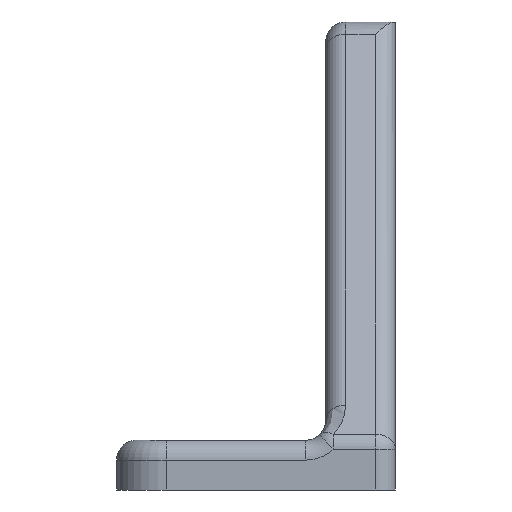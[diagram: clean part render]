
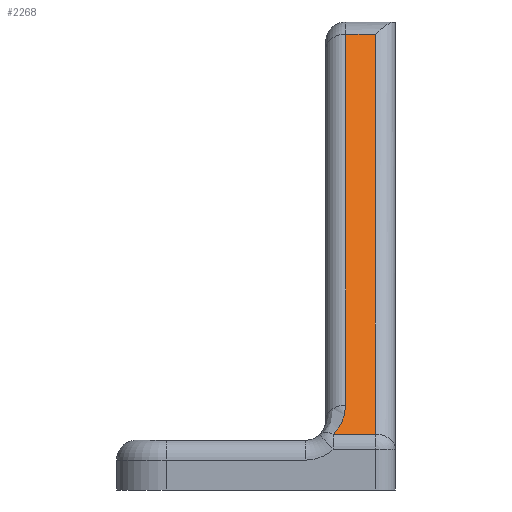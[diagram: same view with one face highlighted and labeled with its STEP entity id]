
A CAD part, front view. The second image highlights one B-rep face of the part: STEP entity #2268.
In plain terms, the highlighted planar face has unit normal (0, -0.658, 0.753).
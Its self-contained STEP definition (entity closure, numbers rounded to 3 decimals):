
#138 = FACE_OUTER_BOUND ( 'NONE', #1165, .T. ) ;
#272 = AXIS2_PLACEMENT_3D ( 'NONE', #2463, #2472, #2473 ) ;
#642 = VECTOR ( 'NONE', #2673, 1000. ) ;
#648 = LINE ( 'NONE', #2672, #642 ) ;
#746 = EDGE_CURVE ( 'NONE', #1237, #1269, #1818, .T. ) ;
#773 = EDGE_CURVE ( 'NONE', #1210, #1306, #648, .T. ) ;
#904 = EDGE_CURVE ( 'NONE', #1269, #1210, #1692, .T. ) ;
#934 = EDGE_CURVE ( 'NONE', #1306, #1264, #1735, .T. ) ;
#948 = EDGE_CURVE ( 'NONE', #1264, #1237, #1776, .T. ) ;
#1165 = EDGE_LOOP ( 'NONE', ( #2127, #2128, #1908, #1951, #2151 ) ) ;
#1210 = VERTEX_POINT ( 'NONE', #3147 ) ;
#1237 = VERTEX_POINT ( 'NONE', #3174 ) ;
#1264 = VERTEX_POINT ( 'NONE', #3197 ) ;
#1269 = VERTEX_POINT ( 'NONE', #3202 ) ;
#1306 = VERTEX_POINT ( 'NONE', #2821 ) ;
#1687 = VECTOR ( 'NONE', #3347, 1000. ) ;
#1692 = LINE ( 'NONE', #3346, #1687 ) ;
#1731 = VECTOR ( 'NONE', #3402, 1000. ) ;
#1735 = LINE ( 'NONE', #3401, #1731 ) ;
#1771 = VECTOR ( 'NONE', #3430, 1000. ) ;
#1776 = LINE ( 'NONE', #3429, #1771 ) ;
#1818 =( BOUNDED_CURVE ( )  B_SPLINE_CURVE ( 3, ( #2638, #2633, #2634, #2639 ),
 .UNSPECIFIED., .F., .T. ) 
 B_SPLINE_CURVE_WITH_KNOTS ( ( 4, 4 ),
 ( 1.571, 2.385 ),
 .UNSPECIFIED. ) 
 CURVE ( )  GEOMETRIC_REPRESENTATION_ITEM ( )  RATIONAL_B_SPLINE_CURVE ( ( 1., 0.946, 0.946, 1. ) ) 
 REPRESENTATION_ITEM ( '' )  );
#1908 = ORIENTED_EDGE ( 'NONE', *, *, #934, .T. ) ;
#1951 = ORIENTED_EDGE ( 'NONE', *, *, #948, .T. ) ;
#2127 = ORIENTED_EDGE ( 'NONE', *, *, #904, .T. ) ;
#2128 = ORIENTED_EDGE ( 'NONE', *, *, #773, .T. ) ;
#2151 = ORIENTED_EDGE ( 'NONE', *, *, #746, .T. ) ;
#2268 = ADVANCED_FACE ( 'NONE', ( #138 ), #2470, .F. ) ;
#2463 = CARTESIAN_POINT ( 'NONE',  ( 28., 0., 5. ) ) ;
#2470 = PLANE ( 'NONE',  #272 ) ;
#2472 = DIRECTION ( 'NONE',  ( 0., 0.659, -0.753 ) ) ;
#2473 = DIRECTION ( 'NONE',  ( 0., 0.753, 0.659 ) ) ;
#2633 = CARTESIAN_POINT ( 'NONE',  ( 23., 2.73, 7.389 ) ) ;
#2634 = CARTESIAN_POINT ( 'NONE',  ( 22.558, 1.559, 6.364 ) ) ;
#2638 = CARTESIAN_POINT ( 'NONE',  ( 23., 4.006, 8.505 ) ) ;
#2639 = CARTESIAN_POINT ( 'NONE',  ( 21.747, 0.683, 5.598 ) ) ;
#2672 = CARTESIAN_POINT ( 'NONE',  ( 26., 0., 5. ) ) ;
#2673 = DIRECTION ( 'NONE',  ( 0., 0.753, 0.659 ) ) ;
#2821 = CARTESIAN_POINT ( 'NONE',  ( 26., 46.586, 45.763 ) ) ;
#3147 = CARTESIAN_POINT ( 'NONE',  ( 26., 0.683, 5.598 ) ) ;
#3174 = CARTESIAN_POINT ( 'NONE',  ( 23., 4.006, 8.505 ) ) ;
#3197 = CARTESIAN_POINT ( 'NONE',  ( 23., 46.586, 45.763 ) ) ;
#3202 = CARTESIAN_POINT ( 'NONE',  ( 21.747, 0.683, 5.598 ) ) ;
#3346 = CARTESIAN_POINT ( 'NONE',  ( 28., 0.683, 5.598 ) ) ;
#3347 = DIRECTION ( 'NONE',  ( 1., 0., 0. ) ) ;
#3401 = CARTESIAN_POINT ( 'NONE',  ( 28., 46.586, 45.763 ) ) ;
#3402 = DIRECTION ( 'NONE',  ( -1., 0., 0. ) ) ;
#3429 = CARTESIAN_POINT ( 'NONE',  ( 23., 0., 5. ) ) ;
#3430 = DIRECTION ( 'NONE',  ( 0., -0.753, -0.659 ) ) ;
